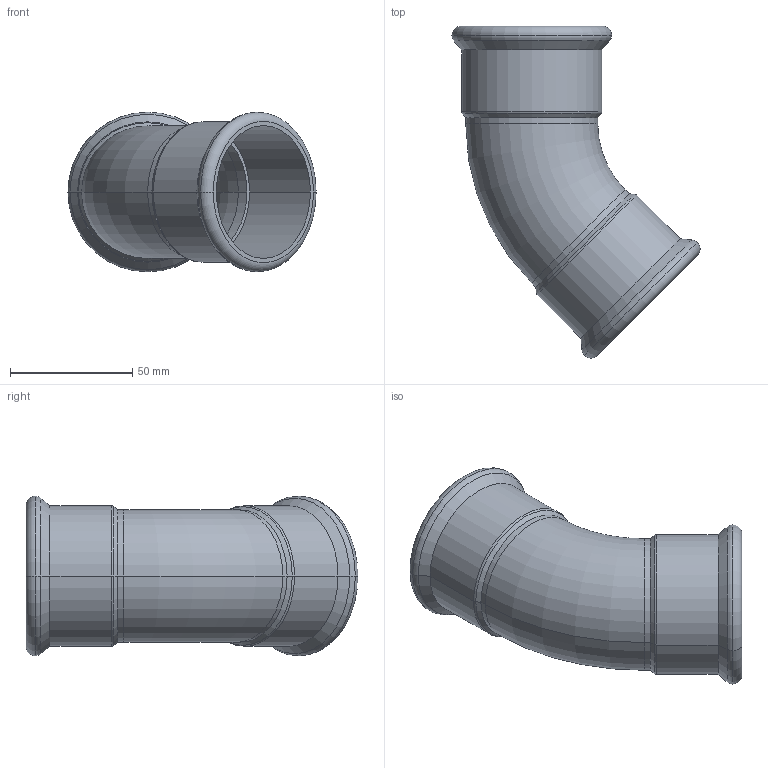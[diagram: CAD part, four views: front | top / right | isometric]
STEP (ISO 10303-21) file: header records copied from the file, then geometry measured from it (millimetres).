
FILE_DESCRIPTION(('CoCreate Modeling STEP Export'),'2;1');
FILE_NAME('C1413 54x54.stp','2014-11-11T16:51:29',(''),(''),'CoCreate Modeling STEP processor for AP214 (Solid Model)','CoCreate Modeling 17.00A 17-Jun-2010 (C) Parametric Technology GmbH','');
FILE_SCHEMA(('AUTOMOTIVE_DESIGN { 1 0 10303 214 1 1 1 1 }'));
Length unit declared in the file: millimetre
Products named in the file (2): C1413_54x54
Assembly tree (1 placements, depth 2):
  C1413_54x54
    C1413_54x54
Bounding box: 101.5 x 135.75 x 65.3 mm (x, y, z)
Volume: 44297.2 mm3; surface area: 48104.1 mm2
Topology: 1 solids, 1 shells, 50 faces, 106 edges, 62 vertices
Faces by surface type: cylinder 20, torus 16, cone 8, plane 6
Entity records: 1129 total; most frequent: ORIENTED_EDGE 212, DIRECTION 176, CARTESIAN_POINT 164, EDGE_CURVE 106, AXIS2_PLACEMENT_3D 74, VERTEX_POINT 62, EDGE_LOOP 56, FACE_OUTER_BOUND 50
